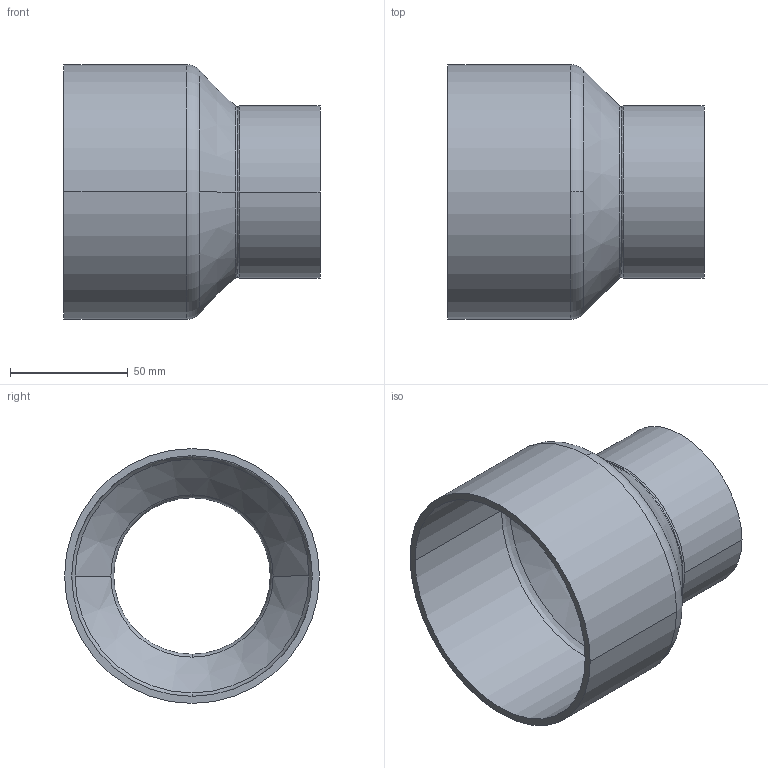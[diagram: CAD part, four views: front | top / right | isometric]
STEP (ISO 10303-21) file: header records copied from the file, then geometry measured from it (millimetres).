
FILE_DESCRIPTION((''),'2;1');
FILE_NAME('G:\Technics\CAD\Bauteile\Serie 15243\1524310867.stp','2005-10-21T12:49:54',('boden'),(''),'Autodesk Inventor 8','Autodesk Inventor 8','');
FILE_SCHEMA(('AUTOMOTIVE_DESIGN { 1 0 10303 214 1 1 1 1 }'));
Length unit declared in the file: millimetre
Products named in the file (1): 1524310867
Bounding box: 108.5 x 108 x 108 mm (x, y, z)
Volume: 98131.7 mm3; surface area: 67072.4 mm2
Topology: 1 solids, 1 shells, 26 faces, 68 edges, 44 vertices
Faces by surface type: cylinder 8, torus 6, bspline 6, cone 4, plane 2
Entity records: 1103 total; most frequent: CARTESIAN_POINT 403, DIRECTION 166, ORIENTED_EDGE 136, AXIS2_PLACEMENT_3D 77, EDGE_CURVE 68, CIRCLE 56, VERTEX_POINT 44, EDGE_LOOP 28
